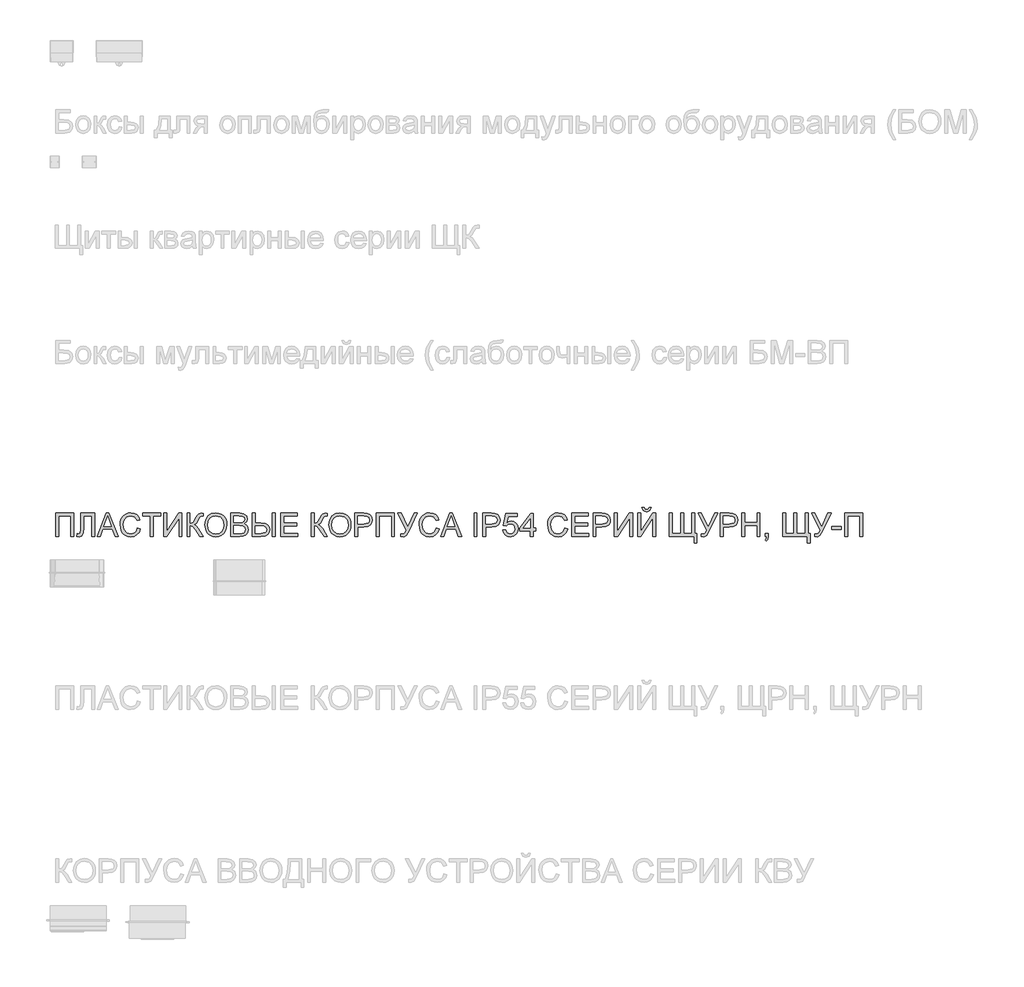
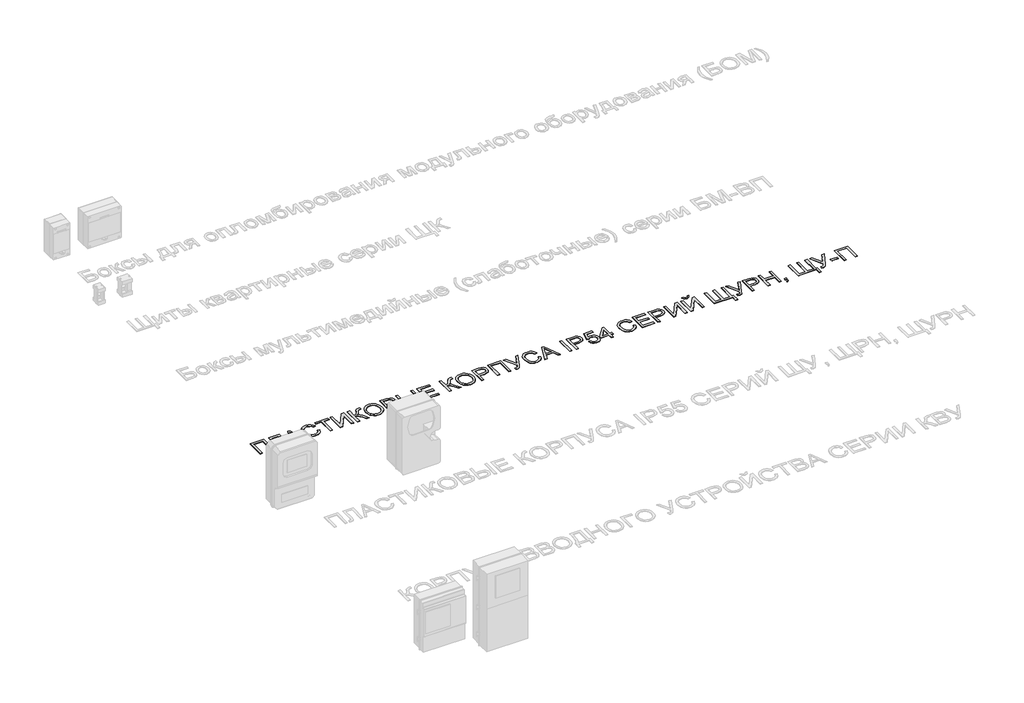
# One storey, part 15 of 25: 1 proxy.
"""IFC4 building model written with IfcOpenShell, lengths in millimetres."""

from ifc_helpers import new_model, si_unit, frame, origin, place, context, project, spatial, polyline, outline, extrude, element, save

model = new_model("IFC4")

# Units and contexts
model_context = context("Model", 3, world=origin())
ifc_project = project(units=[si_unit("LENGTHUNIT", "METRE", prefix="MILLI")], contexts=[model_context])

# Site, building, storey
site = spatial("IfcSite", under=ifc_project)
building = spatial("IfcBuilding", under=site)
storey = spatial("IfcBuildingStorey", under=building, Name="Этаж 01", Elevation=0.0)

# Proxy
placement = place(None, origin())
element("IfcBuildingElementProxy", 1, Name="Надпись на модели 1", ObjectType="Надпись на модели 1", at=placement, inside=storey, context=model_context, shape_type="SweptSolid", body=[
    extrude(outline(polyline([(-19038.1210387, 12886.6915941), (-18959.6395464, 12886.6915941), (-18959.6395464, 12786.235284), (-18972.1965852, 12786.235284), (-18972.1965852, 12874.1345554), (-19025.564, 12874.1345554), (-19025.564, 12786.235284), (-19038.1210387, 12786.235284), (-19038.1210387, 12886.6915941)])), frame((0.0, 0.0, 40.0), z_axis=(0.0, 0.0, 1.0), x_axis=(1.0, 0.0, 0.0)), (0.0, 0.0, 1.0), 2.0),
    extrude(outline(polyline([(-18929.8165793, 12886.6915941), (-18868.6010154, 12886.6915941), (-18868.6010154, 12786.235284), (-18881.1580541, 12786.235284), (-18881.1580541, 12874.1345554), (-18917.2595406, 12874.1345554), (-18917.2595406, 12822.8763307), (-18918.7188058, 12800.0063333), (-18924.8379097, 12788.7000934), (-18936.6591845, 12784.6656541), (-18947.0825077, 12786.235284), (-18945.5128778, 12798.7923228), (-18939.5041386, 12797.2226929), (-18932.2323378, 12800.5949445), (-18929.8165793, 12816.475184), (-18929.8165793, 12886.6915941)])), frame((0.0, 0.0, 40.0), z_axis=(0.0, 0.0, 1.0), x_axis=(1.0, 0.0, 0.0)), (0.0, 0.0, 1.0), 2.0),
    extrude(outline(polyline([(-18858.324845, 12786.235284), (-18818.2257075, 12886.6915941), (-18807.5326042, 12886.6915941), (-18767.4334667, 12786.235284), (-18780.701744, 12786.235284), (-18792.2041877, 12817.6278809), (-18833.5786494, 12817.6278809), (-18845.0565677, 12786.235284), (-18858.324845, 12786.235284)]), holes=[polyline([(-18828.9678617, 12830.1849197), (-18796.7904499, 12830.1849197), (-18805.840347, 12854.8820643), (-18812.8791558, 12874.1345554), (-18819.1331497, 12857.0403053), (-18828.9678617, 12830.1849197)])]), frame((0.0, 0.0, 40.0), z_axis=(0.0, 0.0, 1.0), x_axis=(1.0, 0.0, 0.0)), (0.0, 0.0, 1.0), 2.0),
    extrude(outline(polyline([(-18683.3846935, 12821.944363), (-18670.8276547, 12818.7070014), (-18676.6217962, 12804.0744951), (-18685.7146128, 12793.3844574), (-18697.6585149, 12786.845355), (-18712.0059127, 12784.6656541), (-18726.5709741, 12786.3149918), (-18738.1377971, 12791.2630046), (-18747.0037532, 12799.3380144), (-18753.4662136, 12810.3683429), (-18758.7269261, 12837.2237285), (-18757.2400697, 12851.8715633), (-18752.7795005, 12864.5205726), (-18745.5782105, 12874.7691518), (-18735.8691915, 12882.2156965), (-18724.354485, 12886.7498421), (-18711.7361326, 12888.261224), (-18697.9681489, 12886.305318), (-18686.5852669, 12880.4376002), (-18677.9431057, 12871.0198211), (-18672.3972846, 12858.4137314), (-18684.9543234, 12855.4216246), (-18695.2550192, 12870.8604056), (-18712.2266419, 12875.7041852), (-18731.8715405, 12870.3331081), (-18742.969314, 12855.9121339), (-18746.1698874, 12837.248254), (-18742.3807028, 12815.6167927), (-18730.5839535, 12801.7966924), (-18713.2567115, 12797.2226929), (-18702.7751403, 12798.78006), (-18694.0410086, 12803.4521614), (-18687.4467239, 12811.189946), (-18683.3846935, 12821.944363)])), frame((0.0, 0.0, 40.0), z_axis=(0.0, 0.0, 1.0), x_axis=(1.0, 0.0, 0.0)), (0.0, 0.0, 1.0), 2.0),
    extrude(outline(polyline([(-18628.4476489, 12786.235284), (-18628.4476489, 12874.1345554), (-18661.4098757, 12874.1345554), (-18661.4098757, 12886.6915941), (-18582.9283834, 12886.6915941), (-18582.9283834, 12874.1345554), (-18615.8906101, 12874.1345554), (-18615.8906101, 12786.235284), (-18628.4476489, 12786.235284)])), frame((0.0, 0.0, 40.0), z_axis=(0.0, 0.0, 1.0), x_axis=(1.0, 0.0, 0.0)), (0.0, 0.0, 1.0), 2.0),
    extrude(outline(polyline([(-18568.8017147, 12886.6915941), (-18556.244676, 12886.6915941), (-18556.244676, 12807.1309813), (-18503.6620761, 12886.6915941), (-18490.3202224, 12886.6915941), (-18490.3202224, 12786.235284), (-18502.8772612, 12786.235284), (-18502.8772612, 12865.5751676), (-18555.3372337, 12786.235284), (-18568.8017147, 12786.235284), (-18568.8017147, 12886.6915941)])), frame((0.0, 0.0, 40.0), z_axis=(0.0, 0.0, 1.0), x_axis=(1.0, 0.0, 0.0)), (0.0, 0.0, 1.0), 2.0),
    extrude(outline(polyline([(-18468.3454046, 12886.6915941), (-18455.7883658, 12886.6915941), (-18455.7883658, 12842.7419585), (-18441.7475363, 12846.0651591), (-18431.9496125, 12862.8773663), (-18425.0211683, 12876.9181958), (-18417.1730191, 12883.8711655), (-18405.9526182, 12886.6915941), (-18397.7120615, 12886.5444413), (-18397.7120615, 12873.9874026), (-18400.4834392, 12874.060979), (-18403.2548169, 12874.1345554), (-18413.0650035, 12871.117923), (-18420.5207452, 12858.1930022), (-18429.4112268, 12842.4476529), (-18438.0809791, 12837.248254), (-18428.3872886, 12831.5706085), (-18418.828488, 12819.737071), (-18397.7120615, 12786.235284), (-18412.2801885, 12786.235284), (-18430.134728, 12814.5376722), (-18442.7040295, 12829.3142656), (-18455.7883658, 12833.3241794), (-18455.7883658, 12786.235284), (-18468.3454046, 12786.235284), (-18468.3454046, 12886.6915941)])), frame((0.0, 0.0, 40.0), z_axis=(0.0, 0.0, 1.0), x_axis=(1.0, 0.0, 0.0)), (0.0, 0.0, 1.0), 2.0),
    extrude(outline(polyline([(-18391.4335421, 12835.1390639), (-18388.085816, 12857.353005), (-18378.0426375, 12874.1590808), (-18362.7080897, 12884.7356882), (-18343.4862554, 12888.261224), (-18330.3099486, 12886.605755), (-18318.4948052, 12881.6393481), (-18308.6846187, 12873.7114911), (-18301.5231825, 12863.1716719), (-18297.1453868, 12850.528794), (-18295.6861215, 12836.2917608), (-18297.2220289, 12821.8646552), (-18301.8297508, 12809.0439677), (-18309.2548358, 12798.4857544), (-18319.242832, 12790.8460717), (-18330.9568078, 12786.2107585), (-18343.5598318, 12784.6656541), (-18356.9384737, 12786.3732397), (-18368.8210622, 12791.4959965), (-18378.6067232, 12799.5710063), (-18385.694583, 12810.1353509), (-18391.4335421, 12835.1390639)]), holes=[polyline([(-18378.8765034, 12835.0164366), (-18376.3657088, 12819.301744), (-18368.8333249, 12807.327185), (-18357.5117565, 12799.7488159), (-18343.6334082, 12797.2226929), (-18329.5527249, 12799.7733414), (-18318.2127624, 12807.4252869), (-18310.7355608, 12819.7677279), (-18308.2431603, 12836.3898627), (-18312.5105914, 12857.1138817), (-18324.9817911, 12870.8358802), (-18343.412679, 12875.7041852), (-18356.9200796, 12873.3589375), (-18368.4041292, 12866.3231943), (-18376.2584098, 12853.8060095), (-18378.8765034, 12835.0164366)])]), frame((0.0, 0.0, 40.0), z_axis=(0.0, 0.0, 1.0), x_axis=(1.0, 0.0, 0.0)), (0.0, 0.0, 1.0), 2.0),
    extrude(outline(polyline([(-18278.4201932, 12786.235284), (-18278.4201932, 12886.6915941), (-18240.0868893, 12886.6915941), (-18221.3126448, 12883.7362754), (-18210.227134, 12874.6495902), (-18206.2172203, 12861.7982458), (-18209.5894719, 12850.0628102), (-18219.7798032, 12841.1723286), (-18207.4067054, 12831.8036005), (-18203.0779606, 12816.1808784), (-18206.0332793, 12802.6796092), (-18213.354131, 12793.0656264), (-18224.2802263, 12787.9643294), (-18240.3811949, 12786.235284), (-18278.4201932, 12786.235284)]), holes=[polyline([(-18265.8631545, 12845.8812181), (-18242.9318434, 12845.8812181), (-18229.5409388, 12846.9603387), (-18221.4843231, 12851.6079145), (-18218.7742591, 12859.7871576), (-18221.3003821, 12867.9786633), (-18228.5353947, 12872.8224429), (-18244.6731515, 12874.1345554), (-18265.8631545, 12874.1345554), (-18265.8631545, 12845.8812181)]), polyline([(-18265.8631545, 12798.7923228), (-18240.1114148, 12798.7923228), (-18230.7917376, 12799.2828321), (-18222.9068001, 12802.0174216), (-18217.6828758, 12807.5969652), (-18215.6349994, 12816.0582511), (-18218.0384951, 12825.8193867), (-18225.8253306, 12831.6441849), (-18241.3376881, 12833.3241794), (-18265.8631545, 12833.3241794), (-18265.8631545, 12798.7923228)])]), frame((0.0, 0.0, 40.0), z_axis=(0.0, 0.0, 1.0), x_axis=(1.0, 0.0, 0.0)), (0.0, 0.0, 1.0), 2.0),
    extrude(outline(polyline([(-18097.9127609, 12886.6915941), (-18085.3557222, 12886.6915941), (-18085.3557222, 12786.235284), (-18097.9127609, 12786.235284), (-18097.9127609, 12886.6915941)])), frame((0.0, 0.0, 40.0), z_axis=(0.0, 0.0, 1.0), x_axis=(1.0, 0.0, 0.0)), (0.0, 0.0, 1.0), 2.0),
    extrude(outline(polyline([(-18185.8120323, 12886.6915941), (-18173.2549935, 12886.6915941), (-18173.2549935, 12844.3115883), (-18149.1219346, 12844.3115883), (-18129.4831675, 12842.1165591), (-18117.9500669, 12835.5314713), (-18112.3398665, 12826.1627432), (-18110.4697997, 12815.6167927), (-18112.4471654, 12804.6017926), (-18118.3792626, 12795.0521891), (-18129.6824369, 12788.4395103), (-18147.773034, 12786.235284), (-18185.8120323, 12786.235284), (-18185.8120323, 12886.6915941)]), holes=[polyline([(-18173.2549935, 12798.7923228), (-18147.8956613, 12798.7923228), (-18128.9252131, 12802.777711), (-18124.5014321, 12807.9617815), (-18123.0268385, 12815.5432163), (-18126.5952938, 12825.5250811), (-18135.8168692, 12830.6509035), (-18154.6892155, 12831.7545495), (-18173.2549935, 12831.7545495), (-18173.2549935, 12798.7923228)])]), frame((0.0, 0.0, 40.0), z_axis=(0.0, 0.0, 1.0), x_axis=(1.0, 0.0, 0.0)), (0.0, 0.0, 1.0), 2.0),
    extrude(outline(polyline([(-18061.8112745, 12786.235284), (-18061.8112745, 12886.6915941), (-17989.6083015, 12886.6915941), (-17989.6083015, 12874.1345554), (-18049.2542357, 12874.1345554), (-18049.2542357, 12844.3115883), (-17992.7475612, 12844.3115883), (-17992.7475612, 12831.7545495), (-18049.2542357, 12831.7545495), (-18049.2542357, 12798.7923228), (-17988.0386717, 12798.7923228), (-17988.0386717, 12786.235284), (-18061.8112745, 12786.235284)])), frame((0.0, 0.0, 40.0), z_axis=(0.0, 0.0, 1.0), x_axis=(1.0, 0.0, 0.0)), (0.0, 0.0, 1.0), 2.0),
    extrude(outline(polyline([(-17929.9623674, 12886.6915941), (-17917.4053286, 12886.6915941), (-17917.4053286, 12842.7419585), (-17903.3644991, 12846.0651591), (-17893.5665753, 12862.8773663), (-17886.6381311, 12876.9181958), (-17878.7899819, 12883.8711655), (-17867.569581, 12886.6915941), (-17859.3290243, 12886.5444413), (-17859.3290243, 12873.9874026), (-17862.100402, 12874.060979), (-17864.8717797, 12874.1345554), (-17874.6819662, 12871.117923), (-17882.137708, 12858.1930022), (-17891.0281896, 12842.4476529), (-17899.6979419, 12837.248254), (-17890.0042513, 12831.5706085), (-17880.4454508, 12819.737071), (-17859.3290243, 12786.235284), (-17873.8971513, 12786.235284), (-17891.7516908, 12814.5376722), (-17904.3209923, 12829.3142656), (-17917.4053286, 12833.3241794), (-17917.4053286, 12786.235284), (-17929.9623674, 12786.235284), (-17929.9623674, 12886.6915941)])), frame((0.0, 0.0, 40.0), z_axis=(0.0, 0.0, 1.0), x_axis=(1.0, 0.0, 0.0)), (0.0, 0.0, 1.0), 2.0),
    extrude(outline(polyline([(-17853.0505049, 12835.1390639), (-17849.7027788, 12857.353005), (-17839.6596003, 12874.1590808), (-17824.3250525, 12884.7356882), (-17805.1032182, 12888.261224), (-17791.9269114, 12886.605755), (-17780.111768, 12881.6393481), (-17770.3015815, 12873.7114911), (-17763.1401453, 12863.1716719), (-17758.7623496, 12850.528794), (-17757.3030843, 12836.2917608), (-17758.8389917, 12821.8646552), (-17763.4467136, 12809.0439677), (-17770.8717986, 12798.4857544), (-17780.8597947, 12790.8460717), (-17792.5737706, 12786.2107585), (-17805.1767946, 12784.6656541), (-17818.5554365, 12786.3732397), (-17830.438025, 12791.4959965), (-17840.223686, 12799.5710063), (-17847.3115458, 12810.1353509), (-17853.0505049, 12835.1390639)]), holes=[polyline([(-17840.4934662, 12835.0164366), (-17837.9826715, 12819.301744), (-17830.4502877, 12807.327185), (-17819.1287193, 12799.7488159), (-17805.250371, 12797.2226929), (-17791.1696877, 12799.7733414), (-17779.8297252, 12807.4252869), (-17772.3525236, 12819.7677279), (-17769.8601231, 12836.3898627), (-17774.1275542, 12857.1138817), (-17786.5987539, 12870.8358802), (-17805.0296418, 12875.7041852), (-17818.5370424, 12873.3589375), (-17830.021092, 12866.3231943), (-17837.8753726, 12853.8060095), (-17840.4934662, 12835.0164366)])]), frame((0.0, 0.0, 40.0), z_axis=(0.0, 0.0, 1.0), x_axis=(1.0, 0.0, 0.0)), (0.0, 0.0, 1.0), 2.0),
    extrude(outline(polyline([(-17740.037156, 12786.235284), (-17740.037156, 12886.6915941), (-17702.8074981, 12886.6915941), (-17687.7979127, 12885.735101), (-17675.5964932, 12881.0384742), (-17667.6870303, 12871.3263895), (-17664.6949234, 12857.6289165), (-17666.7152087, 12845.7892476), (-17672.7760646, 12835.9238788), (-17684.1098957, 12829.2652147), (-17701.9491068, 12827.04566), (-17727.4801172, 12827.04566), (-17727.4801172, 12786.235284), (-17740.037156, 12786.235284)]), holes=[polyline([(-17727.4801172, 12839.6026988), (-17701.2133428, 12839.6026988), (-17682.7211412, 12844.2134864), (-17678.6192569, 12849.7623732), (-17677.2519622, 12857.1874581), (-17680.477061, 12867.5862559), (-17688.9506096, 12873.2761641), (-17701.5076484, 12874.1345554), (-17727.4801172, 12874.1345554), (-17727.4801172, 12839.6026988)])]), frame((0.0, 0.0, 40.0), z_axis=(0.0, 0.0, 1.0), x_axis=(1.0, 0.0, 0.0)), (0.0, 0.0, 1.0), 2.0),
    extrude(outline(polyline([(-17647.4289951, 12886.6915941), (-17568.9475028, 12886.6915941), (-17568.9475028, 12786.235284), (-17581.5045416, 12786.235284), (-17581.5045416, 12874.1345554), (-17634.8719563, 12874.1345554), (-17634.8719563, 12786.235284), (-17647.4289951, 12786.235284), (-17647.4289951, 12886.6915941)])), frame((0.0, 0.0, 40.0), z_axis=(0.0, 0.0, 1.0), x_axis=(1.0, 0.0, 0.0)), (0.0, 0.0, 1.0), 2.0),
    extrude(outline(polyline([(-17554.0360193, 12886.6915941), (-17540.1300798, 12886.6915941), (-17510.0863836, 12827.1928128), (-17483.0593196, 12886.6915941), (-17469.2760076, 12886.6915941), (-17507.4131077, 12808.430831), (-17517.78738, 12789.2028654), (-17529.3879256, 12784.6656541), (-17540.6941656, 12786.235284), (-17540.6941656, 12797.2226929), (-17530.8104026, 12797.2226929), (-17523.4772882, 12800.0185961), (-17516.683734, 12812.7473131), (-17554.0360193, 12886.6915941)])), frame((0.0, 0.0, 40.0), z_axis=(0.0, 0.0, 1.0), x_axis=(1.0, 0.0, 0.0)), (0.0, 0.0, 1.0), 2.0),
    extrude(outline(polyline([(-17386.8704406, 12821.944363), (-17374.3134019, 12818.7070014), (-17380.1075433, 12804.0744951), (-17389.2003599, 12793.3844574), (-17401.1442621, 12786.845355), (-17415.4916599, 12784.6656541), (-17430.0567212, 12786.3149918), (-17441.6235443, 12791.2630046), (-17450.4895003, 12799.3380144), (-17456.9519607, 12810.3683429), (-17462.2126733, 12837.2237285), (-17460.7258169, 12851.8715633), (-17456.2652477, 12864.5205726), (-17449.0639576, 12874.7691518), (-17439.3549386, 12882.2156965), (-17427.8402322, 12886.7498421), (-17415.2218797, 12888.261224), (-17401.4538961, 12886.305318), (-17390.071014, 12880.4376002), (-17381.4288528, 12871.0198211), (-17375.8830317, 12858.4137314), (-17388.4400705, 12855.4216246), (-17398.7407664, 12870.8604056), (-17415.7123891, 12875.7041852), (-17435.3572876, 12870.3331081), (-17446.4550611, 12855.9121339), (-17449.6556345, 12837.248254), (-17445.8664499, 12815.6167927), (-17434.0697006, 12801.7966924), (-17416.7424587, 12797.2226929), (-17406.2608875, 12798.78006), (-17397.5267558, 12803.4521614), (-17390.932471, 12811.189946), (-17386.8704406, 12821.944363)])), frame((0.0, 0.0, 40.0), z_axis=(0.0, 0.0, 1.0), x_axis=(1.0, 0.0, 0.0)), (0.0, 0.0, 1.0), 2.0),
    extrude(outline(polyline([(-17368.746121, 12786.235284), (-17328.6469835, 12886.6915941), (-17317.9538802, 12886.6915941), (-17277.8547427, 12786.235284), (-17291.12302, 12786.235284), (-17302.6254637, 12817.6278809), (-17343.9999255, 12817.6278809), (-17355.4778437, 12786.235284), (-17368.746121, 12786.235284)]), holes=[polyline([(-17339.3891378, 12830.1849197), (-17307.211726, 12830.1849197), (-17316.261623, 12854.8820643), (-17323.3004319, 12874.1345554), (-17329.5544258, 12857.0403053), (-17339.3891378, 12830.1849197)])]), frame((0.0, 0.0, 40.0), z_axis=(0.0, 0.0, 1.0), x_axis=(1.0, 0.0, 0.0)), (0.0, 0.0, 1.0), 2.0),
    extrude(outline(polyline([(-17223.6289367, 12786.235284), (-17223.6289367, 12886.6915941), (-17211.0718979, 12886.6915941), (-17211.0718979, 12786.235284), (-17223.6289367, 12786.235284)])), frame((0.0, 0.0, 40.0), z_axis=(0.0, 0.0, 1.0), x_axis=(1.0, 0.0, 0.0)), (0.0, 0.0, 1.0), 2.0),
    extrude(outline(polyline([(-17185.9578203, 12786.235284), (-17185.9578203, 12886.6915941), (-17148.7281624, 12886.6915941), (-17133.718577, 12885.735101), (-17121.5171575, 12881.0384742), (-17113.6076946, 12871.3263895), (-17110.6155877, 12857.6289165), (-17112.635873, 12845.7892476), (-17118.6967289, 12835.9238788), (-17130.03056, 12829.2652147), (-17147.8697711, 12827.04566), (-17173.4007816, 12827.04566), (-17173.4007816, 12786.235284), (-17185.9578203, 12786.235284)]), holes=[polyline([(-17173.4007816, 12839.6026988), (-17147.1340071, 12839.6026988), (-17128.6418055, 12844.2134864), (-17124.5399212, 12849.7623732), (-17123.1726265, 12857.1874581), (-17126.3977253, 12867.5862559), (-17134.8712739, 12873.2761641), (-17147.4283127, 12874.1345554), (-17173.4007816, 12874.1345554), (-17173.4007816, 12839.6026988)])]), frame((0.0, 0.0, 40.0), z_axis=(0.0, 0.0, 1.0), x_axis=(1.0, 0.0, 0.0)), (0.0, 0.0, 1.0), 2.0),
    extrude(outline(polyline([(-17098.058549, 12812.9189914), (-17085.5015102, 12814.4886212), (-17079.1739399, 12801.5514377), (-17066.0528154, 12797.2226929), (-17057.0519692, 12798.7279434), (-17050.307466, 12803.2436949), (-17046.0952171, 12810.2487812), (-17044.6911342, 12819.2220362), (-17049.9518467, 12834.1335198), (-17056.5583942, 12838.235404), (-17065.8566117, 12839.6026988), (-17076.8808088, 12837.4199323), (-17083.9318803, 12831.7545495), (-17096.4889191, 12833.3241794), (-17085.5015102, 12885.1219643), (-17036.842985, 12885.1219643), (-17036.842985, 12872.5649255), (-17075.3479671, 12872.5649255), (-17080.7190443, 12844.9001995), (-17071.7488549, 12850.344853), (-17062.34947, 12852.1597375), (-17050.6171, 12849.909526), (-17040.8774242, 12843.1588914), (-17034.3199276, 12832.8704582), (-17032.1340954, 12820.0068512), (-17034.1022641, 12807.4498124), (-17040.0067701, 12796.7076581), (-17051.3130101, 12787.6761551), (-17066.1018663, 12784.6656541), (-17078.4351102, 12786.6001003), (-17088.2606252, 12792.4034388), (-17094.9959314, 12801.4012192), (-17098.058549, 12812.9189914)])), frame((0.0, 0.0, 40.0), z_axis=(0.0, 0.0, 1.0), x_axis=(1.0, 0.0, 0.0)), (0.0, 0.0, 1.0), 2.0),
    extrude(outline(polyline([(-16980.3363105, 12786.235284), (-16980.3363105, 12809.7797317), (-17025.855576, 12809.7797317), (-17025.855576, 12822.3367705), (-16977.1970508, 12885.1219643), (-16967.7792717, 12885.1219643), (-16967.7792717, 12822.3367705), (-16955.222233, 12822.3367705), (-16955.222233, 12809.7797317), (-16967.7792717, 12809.7797317), (-16967.7792717, 12786.235284), (-16980.3363105, 12786.235284)]), holes=[polyline([(-16980.3363105, 12822.3367705), (-16980.3363105, 12861.1360582), (-17010.4045322, 12822.3367705), (-16980.3363105, 12822.3367705)])]), frame((0.0, 0.0, 40.0), z_axis=(0.0, 0.0, 1.0), x_axis=(1.0, 0.0, 0.0)), (0.0, 0.0, 1.0), 2.0),
    extrude(outline(polyline([(-16829.6518453, 12821.944363), (-16817.0948065, 12818.7070014), (-16822.8889479, 12804.0744951), (-16831.9817646, 12793.3844574), (-16843.9256667, 12786.845355), (-16858.2730645, 12784.6656541), (-16872.8381258, 12786.3149918), (-16884.4049489, 12791.2630046), (-16893.270905, 12799.3380144), (-16899.7333654, 12810.3683429), (-16904.9940779, 12837.2237285), (-16903.5072215, 12851.8715633), (-16899.0466523, 12864.5205726), (-16891.8453623, 12874.7691518), (-16882.1363433, 12882.2156965), (-16870.6216368, 12886.7498421), (-16858.0032844, 12888.261224), (-16844.2353007, 12886.305318), (-16832.8524186, 12880.4376002), (-16824.2102574, 12871.0198211), (-16818.6644364, 12858.4137314), (-16831.2214751, 12855.4216246), (-16841.522171, 12870.8604056), (-16858.4937937, 12875.7041852), (-16878.1386922, 12870.3331081), (-16889.2364658, 12855.9121339), (-16892.4370391, 12837.248254), (-16888.6478546, 12815.6167927), (-16876.8511053, 12801.7966924), (-16859.5238633, 12797.2226929), (-16849.0422921, 12798.78006), (-16840.3081604, 12803.4521614), (-16833.7138756, 12811.189946), (-16829.6518453, 12821.944363)])), frame((0.0, 0.0, 40.0), z_axis=(0.0, 0.0, 1.0), x_axis=(1.0, 0.0, 0.0)), (0.0, 0.0, 1.0), 2.0),
    extrude(outline(polyline([(-16799.8288782, 12786.235284), (-16799.8288782, 12886.6915941), (-16727.6259053, 12886.6915941), (-16727.6259053, 12874.1345554), (-16787.2718394, 12874.1345554), (-16787.2718394, 12844.3115883), (-16730.765165, 12844.3115883), (-16730.765165, 12831.7545495), (-16787.2718394, 12831.7545495), (-16787.2718394, 12798.7923228), (-16726.0562754, 12798.7923228), (-16726.0562754, 12786.235284), (-16799.8288782, 12786.235284)])), frame((0.0, 0.0, 40.0), z_axis=(0.0, 0.0, 1.0), x_axis=(1.0, 0.0, 0.0)), (0.0, 0.0, 1.0), 2.0),
    extrude(outline(polyline([(-16707.2207173, 12786.235284), (-16707.2207173, 12886.6915941), (-16669.9910594, 12886.6915941), (-16654.981474, 12885.735101), (-16642.7800545, 12881.0384742), (-16634.8705916, 12871.3263895), (-16631.8784847, 12857.6289165), (-16633.89877, 12845.7892476), (-16639.9596258, 12835.9238788), (-16651.293457, 12829.2652147), (-16669.1326681, 12827.04566), (-16694.6636785, 12827.04566), (-16694.6636785, 12786.235284), (-16707.2207173, 12786.235284)]), holes=[polyline([(-16694.6636785, 12839.6026988), (-16668.3969041, 12839.6026988), (-16649.9047024, 12844.2134864), (-16645.8028182, 12849.7623732), (-16644.4355234, 12857.1874581), (-16647.6606223, 12867.5862559), (-16656.1341709, 12873.2761641), (-16668.6912097, 12874.1345554), (-16694.6636785, 12874.1345554), (-16694.6636785, 12839.6026988)])]), frame((0.0, 0.0, 40.0), z_axis=(0.0, 0.0, 1.0), x_axis=(1.0, 0.0, 0.0)), (0.0, 0.0, 1.0), 2.0),
    extrude(outline(polyline([(-16614.6125564, 12886.6915941), (-16602.0555176, 12886.6915941), (-16602.0555176, 12807.1309813), (-16549.4729178, 12886.6915941), (-16536.1310641, 12886.6915941), (-16536.1310641, 12786.235284), (-16548.6881028, 12786.235284), (-16548.6881028, 12865.5751676), (-16601.1480753, 12786.235284), (-16614.6125564, 12786.235284), (-16614.6125564, 12886.6915941)])), frame((0.0, 0.0, 40.0), z_axis=(0.0, 0.0, 1.0), x_axis=(1.0, 0.0, 0.0)), (0.0, 0.0, 1.0), 2.0),
    extrude(outline(polyline([(-16514.1562462, 12886.6915941), (-16501.5992075, 12886.6915941), (-16501.5992075, 12807.1309813), (-16449.0166076, 12886.6915941), (-16435.6747539, 12886.6915941), (-16435.6747539, 12786.235284), (-16448.2317927, 12786.235284), (-16448.2317927, 12865.5751676), (-16500.6917652, 12786.235284), (-16514.1562462, 12786.235284), (-16514.1562462, 12886.6915941)])), frame((0.0, 0.0, 40.0), z_axis=(0.0, 0.0, 1.0), x_axis=(1.0, 0.0, 0.0)), (0.0, 0.0, 1.0), 2.0),
    extrude(outline(polyline([(-16463.9280911, 12911.8056717), (-16454.5103121, 12911.8056717), (-16460.6048905, 12897.8384186), (-16474.1306851, 12892.9701135), (-16488.7723886, 12897.8016304), (-16495.3206881, 12911.8056717), (-16485.902909, 12911.8056717), (-16482.3712418, 12904.7300746), (-16475.2588566, 12902.3878926), (-16467.4597583, 12904.6564982), (-16463.9280911, 12911.8056717)])), frame((0.0, 0.0, 40.0), z_axis=(0.0, 0.0, 1.0), x_axis=(1.0, 0.0, 0.0)), (0.0, 0.0, 1.0), 2.0),
    extrude(outline(polyline([(-16376.0288198, 12886.6915941), (-16363.471781, 12886.6915941), (-16363.471781, 12798.7923228), (-16327.3702945, 12798.7923228), (-16327.3702945, 12886.6915941), (-16314.8132558, 12886.6915941), (-16314.8132558, 12798.7923228), (-16278.7117693, 12798.7923228), (-16278.7117693, 12886.6915941), (-16266.1547305, 12886.6915941), (-16266.1547305, 12798.7923228), (-16256.7369515, 12798.7923228), (-16256.7369515, 12757.9819468), (-16269.2939902, 12757.9819468), (-16269.2939902, 12786.235284), (-16376.0288198, 12786.235284), (-16376.0288198, 12886.6915941)])), frame((0.0, 0.0, 40.0), z_axis=(0.0, 0.0, 1.0), x_axis=(1.0, 0.0, 0.0)), (0.0, 0.0, 1.0), 2.0),
    extrude(outline(polyline([(-16251.243247, 12886.6915941), (-16237.3373076, 12886.6915941), (-16207.2936113, 12827.1928128), (-16180.2665474, 12886.6915941), (-16166.4832353, 12886.6915941), (-16204.6203355, 12808.430831), (-16214.9946077, 12789.2028654), (-16226.5951533, 12784.6656541), (-16237.9013933, 12786.235284), (-16237.9013933, 12797.2226929), (-16228.0176304, 12797.2226929), (-16220.6845159, 12800.0185961), (-16213.8909618, 12812.7473131), (-16251.243247, 12886.6915941)])), frame((0.0, 0.0, 40.0), z_axis=(0.0, 0.0, 1.0), x_axis=(1.0, 0.0, 0.0)), (0.0, 0.0, 1.0), 2.0),
    extrude(outline(polyline([(-16154.7110115, 12786.235284), (-16154.7110115, 12886.6915941), (-16117.4813536, 12886.6915941), (-16102.4717681, 12885.735101), (-16090.2703486, 12881.0384742), (-16082.3608857, 12871.3263895), (-16079.3687789, 12857.6289165), (-16081.3890641, 12845.7892476), (-16087.44992, 12835.9238788), (-16098.7837511, 12829.2652147), (-16116.6229622, 12827.04566), (-16142.1539727, 12827.04566), (-16142.1539727, 12786.235284), (-16154.7110115, 12786.235284)]), holes=[polyline([(-16142.1539727, 12839.6026988), (-16115.8871982, 12839.6026988), (-16097.3949966, 12844.2134864), (-16093.2931124, 12849.7623732), (-16091.9258176, 12857.1874581), (-16095.1509164, 12867.5862559), (-16103.6244651, 12873.2761641), (-16116.1815038, 12874.1345554), (-16142.1539727, 12874.1345554), (-16142.1539727, 12839.6026988)])]), frame((0.0, 0.0, 40.0), z_axis=(0.0, 0.0, 1.0), x_axis=(1.0, 0.0, 0.0)), (0.0, 0.0, 1.0), 2.0),
    extrude(outline(polyline([(-16062.1028505, 12786.235284), (-16062.1028505, 12886.6915941), (-16049.5458118, 12886.6915941), (-16049.5458118, 12845.8812181), (-15996.178397, 12845.8812181), (-15996.178397, 12886.6915941), (-15983.6213582, 12886.6915941), (-15983.6213582, 12786.235284), (-15996.178397, 12786.235284), (-15996.178397, 12833.3241794), (-16049.5458118, 12833.3241794), (-16049.5458118, 12786.235284), (-16062.1028505, 12786.235284)])), frame((0.0, 0.0, 40.0), z_axis=(0.0, 0.0, 1.0), x_axis=(1.0, 0.0, 0.0)), (0.0, 0.0, 1.0), 2.0),
    extrude(outline(polyline([(-15960.0769105, 12786.235284), (-15960.0769105, 12798.7923228), (-15947.5198718, 12798.7923228), (-15947.5198718, 12786.235284), (-15949.7762147, 12773.3962024), (-15956.9376509, 12765.830096), (-15960.0769105, 12770.5389855), (-15955.4661229, 12775.9591136), (-15953.8229166, 12786.235284), (-15960.0769105, 12786.235284)])), frame((0.0, 0.0, 40.0), z_axis=(0.0, 0.0, 1.0), x_axis=(1.0, 0.0, 0.0)), (0.0, 0.0, 1.0), 2.0),
    extrude(outline(polyline([(-15884.7346779, 12886.6915941), (-15872.1776392, 12886.6915941), (-15872.1776392, 12798.7923228), (-15836.0761527, 12798.7923228), (-15836.0761527, 12886.6915941), (-15823.5191139, 12886.6915941), (-15823.5191139, 12798.7923228), (-15787.4176275, 12798.7923228), (-15787.4176275, 12886.6915941), (-15774.8605887, 12886.6915941), (-15774.8605887, 12798.7923228), (-15765.4428096, 12798.7923228), (-15765.4428096, 12757.9819468), (-15777.9998484, 12757.9819468), (-15777.9998484, 12786.235284), (-15884.7346779, 12786.235284), (-15884.7346779, 12886.6915941)])), frame((0.0, 0.0, 40.0), z_axis=(0.0, 0.0, 1.0), x_axis=(1.0, 0.0, 0.0)), (0.0, 0.0, 1.0), 2.0),
    extrude(outline(polyline([(-15759.9491052, 12886.6915941), (-15746.0431658, 12886.6915941), (-15715.9994695, 12827.1928128), (-15688.9724056, 12886.6915941), (-15675.1890935, 12886.6915941), (-15713.3261937, 12808.430831), (-15723.7004659, 12789.2028654), (-15735.3010115, 12784.6656541), (-15746.6072515, 12786.235284), (-15746.6072515, 12797.2226929), (-15736.7234885, 12797.2226929), (-15729.3903741, 12800.0185961), (-15722.5968199, 12812.7473131), (-15759.9491052, 12886.6915941)])), frame((0.0, 0.0, 40.0), z_axis=(0.0, 0.0, 1.0), x_axis=(1.0, 0.0, 0.0)), (0.0, 0.0, 1.0), 2.0),
    extrude(outline(polyline([(-15671.2650189, 12816.0582511), (-15671.2650189, 12828.6152898), (-15632.0242727, 12828.6152898), (-15632.0242727, 12816.0582511), (-15671.2650189, 12816.0582511)])), frame((0.0, 0.0, 40.0), z_axis=(0.0, 0.0, 1.0), x_axis=(1.0, 0.0, 0.0)), (0.0, 0.0, 1.0), 2.0),
    extrude(outline(polyline([(-15616.3279743, 12886.6915941), (-15537.846482, 12886.6915941), (-15537.846482, 12786.235284), (-15550.4035207, 12786.235284), (-15550.4035207, 12874.1345554), (-15603.7709355, 12874.1345554), (-15603.7709355, 12786.235284), (-15616.3279743, 12786.235284), (-15616.3279743, 12886.6915941)])), frame((0.0, 0.0, 40.0), z_axis=(0.0, 0.0, 1.0), x_axis=(1.0, 0.0, 0.0)), (0.0, 0.0, 1.0), 2.0),
])

save(model, "model.ifc")
